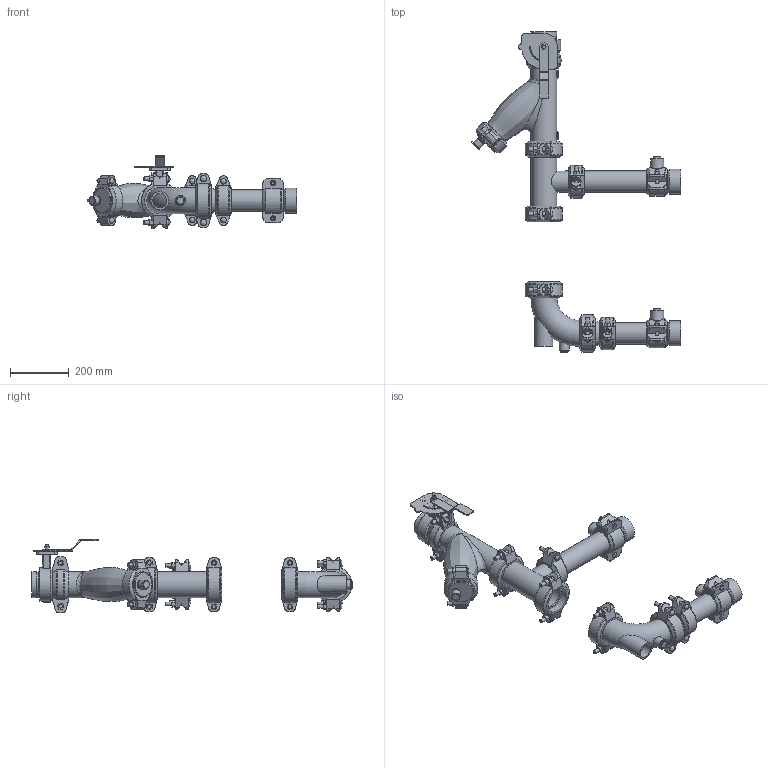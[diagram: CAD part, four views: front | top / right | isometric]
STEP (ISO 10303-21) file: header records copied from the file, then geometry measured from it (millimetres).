
FILE_DESCRIPTION(/* description */ ('VIC SVI DOUBLE COIL AHU DROP LOW PROFILE SERIES 385H (OGSxFPT)','CAx-IF Rec.Pracs.---Representation and Presentation of Product Manufacturing Information (PMI)---4.0---2014-10-13'),/* implementation_level */ '2;1');
FILE_NAME(/* name */ 'C:\Users\Vjadhav\AppData\Roaming\Autodesk\ApplicationPlugins\Victaulic.Temp\A526\Victaulic_IPS_SVI_Double Coil_Low Profile_Series 385H (OGSxFPT)_03.0x02.5 (80x65).stp',/* time_stamp */ '2021-03-17T15:41:30+05:00',/* author */ ('Vjadhav'),/* organization */ ('Victaulic'),/* preprocessor_version */ 'ST-DEVELOPER v17.2',/* originating_system */ 'Autodesk Inventor 2019',/* authorisation */ '');
FILE_SCHEMA (('AP242_MANAGED_MODEL_BASED_3D_ENGINEERING_MIM_LF { 1 0 10303 442 1 1 4 }'));
Length unit declared in the file: inch
Products named in the file (16): 385H-03.0x02.5; Pipe-02.5; 050-03.0x02.5; 025-03.0x02.5; 177N-03.0; 732-03.0; 732-03.0_1; 07-03.0; 732-03.0_2; 107N-03.0; 761-03.0; 177N-02.5; Pipe_(10 1/4")-02.5; 072-02.5x0.75; 080-02.5; 100G-03.0
Assembly tree (21 placements, depth 3):
  385H-03.0x02.5
    080-02.5  x2
    072-02.5x0.75  x2
    Pipe-02.5
    177N-02.5  x2
    050-03.0x02.5
    177N-03.0  x4
    025-03.0x02.5
    732-03.0
      732-03.0_1
      07-03.0
      732-03.0_2
    107N-03.0
    761-03.0
    Pipe_(10 1/4")-02.5
    100G-03.0
Bounding box: 714.45 x 1091.95 x 249.43 mm (x, y, z)
Volume: 6988438 mm3; surface area: 1674222.8 mm2
Topology: 20 solids, 23 shells, 1211 faces, 3292 edges, 2195 vertices
Faces by surface type: plane 666, cylinder 400, torus 52, cone 47, bspline 30, sphere 16
Full cylindrical faces by diameter (mm): 4.826 x10, 8.636 x4, 10.16 x8, 10.922 x2, 12.7 x20, 14.605 x4, 17.78 x4, 19.05 x4, 20.93 x3, 22.225 x12, 22.86 x1, 25.4 x2, 26.67 x6, 29.21 x1, 30.48 x1, 34.29 x1, 48.26 x1, 55.118 x1, 60.325 x2, 60.96 x1, 62.713 x6, 69.088 x8, 70.104 x1, 73.025 x22, 74.524 x1, 74.676 x1, 76.2 x5, 77.927 x5, 82.55 x1, 84.938 x11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
Entity records: 28572 total; most frequent: CARTESIAN_POINT 7780, DIRECTION 4244, ORIENTED_EDGE 3972, EDGE_CURVE 1986, AXIS2_PLACEMENT_3D 1628, VERTEX_POINT 1339, LINE 988, VECTOR 988
